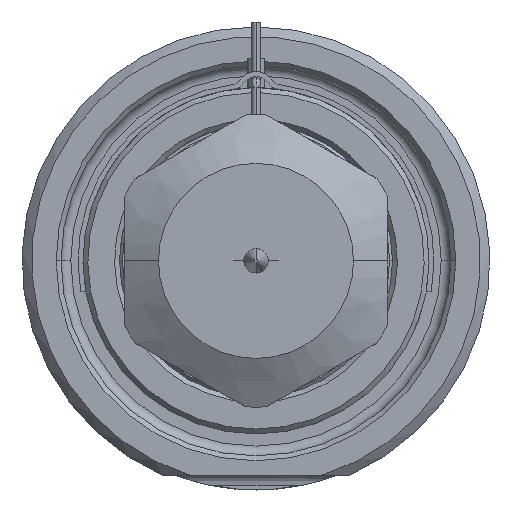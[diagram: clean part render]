
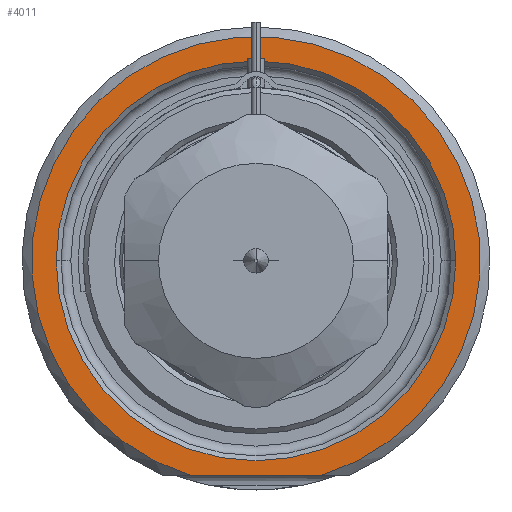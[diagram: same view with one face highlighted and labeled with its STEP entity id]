
A CAD part, front view. The second image highlights one B-rep face of the part: STEP entity #4011.
In plain terms, the highlighted planar face has unit normal (0, -1, 0).
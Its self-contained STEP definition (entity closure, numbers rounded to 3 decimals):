
#1=DIRECTION('',(1.,0.,0.));
#2=VECTOR('',#1,13.416);
#3=CARTESIAN_POINT('',(-6.708,0.,-22.));
#4=LINE('',#3,#2);
#5=CARTESIAN_POINT('',(0.,0.,0.));
#6=DIRECTION('',(0.,1.,0.));
#7=DIRECTION('',(-1.,0.,0.));
#8=AXIS2_PLACEMENT_3D('',#5,#6,#7);
#10=CARTESIAN_POINT('',(0.,0.,0.));
#11=DIRECTION('',(0.,1.,0.));
#12=DIRECTION('',(1.,0.,0.));
#13=AXIS2_PLACEMENT_3D('',#10,#11,#12);
#121=CARTESIAN_POINT('',(0.,0.,0.));
#122=DIRECTION('',(0.,-1.,0.));
#123=DIRECTION('',(0.292,0.,-0.957));
#124=AXIS2_PLACEMENT_3D('',#121,#122,#123);
#3384=CARTESIAN_POINT('',(-20.5,0.,0.));
#3385=CARTESIAN_POINT('',(20.5,0.,0.));
#3386=VERTEX_POINT('',#3384);
#3387=VERTEX_POINT('',#3385);
#3424=CARTESIAN_POINT('',(-6.708,0.,-22.));
#3425=CARTESIAN_POINT('',(6.708,0.,-22.));
#3426=VERTEX_POINT('',#3424);
#3427=VERTEX_POINT('',#3425);
#3994=CARTESIAN_POINT('',(0.,0.,0.));
#3995=DIRECTION('',(0.,-1.,0.));
#3996=DIRECTION('',(1.,0.,0.));
#3997=AXIS2_PLACEMENT_3D('',#3994,#3995,#3996);
#3998=PLANE('',#3997);
#4000=ORIENTED_EDGE('',*,*,#3999,.F.);
#4002=ORIENTED_EDGE('',*,*,#4001,.F.);
#4003=EDGE_LOOP('',(#4000,#4002));
#4004=FACE_OUTER_BOUND('',#4003,.F.);
#4006=ORIENTED_EDGE('',*,*,#4005,.F.);
#4008=ORIENTED_EDGE('',*,*,#4007,.F.);
#4009=EDGE_LOOP('',(#4006,#4008));
#4010=FACE_BOUND('',#4009,.F.);
#4011=ADVANCED_FACE('',(#4004,#4010),#3998,.T.);
#9=CIRCLE('',#8,20.5);
#14=CIRCLE('',#13,20.5);
#125=CIRCLE('',#124,23.);
#3999=EDGE_CURVE('',#3426,#3427,#4,.T.);
#4001=EDGE_CURVE('',#3427,#3426,#125,.T.);
#4005=EDGE_CURVE('',#3386,#3387,#9,.T.);
#4007=EDGE_CURVE('',#3387,#3386,#14,.T.);
